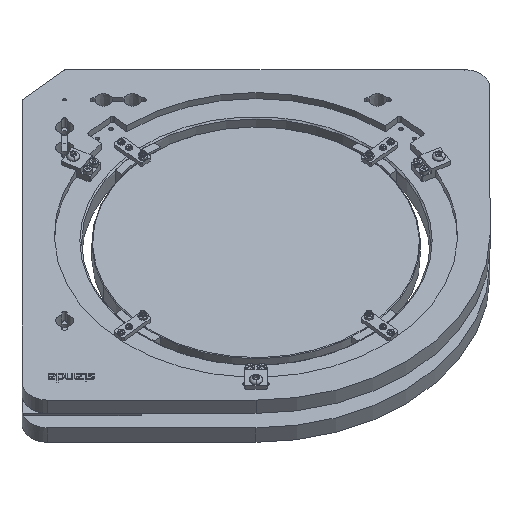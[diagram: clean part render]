
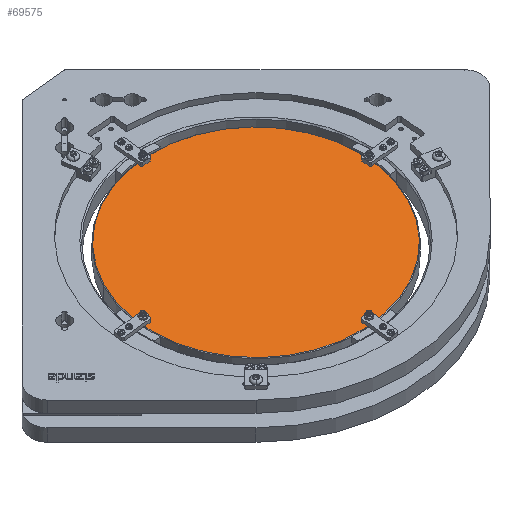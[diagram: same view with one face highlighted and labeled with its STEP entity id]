
A CAD part, top view. The second image highlights one B-rep face of the part: STEP entity #69575.
In plain terms, the highlighted planar face has unit normal (0, 0.707, 0.707).
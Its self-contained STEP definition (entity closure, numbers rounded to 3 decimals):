
#4253=CARTESIAN_POINT('',(1.555,142.859,234.512));
#4254=VERTEX_POINT('',#4253);
#4279=CARTESIAN_POINT('',(3.509,142.557,234.814));
#4280=VERTEX_POINT('',#4279);
#4287=CARTESIAN_POINT('',(2.532,142.708,234.663));
#4288=DIRECTION('',(0.,-0.707,-0.707));
#4289=DIRECTION('',(-0.977,0.151,-0.151));
#4290=AXIS2_PLACEMENT_3D('',#4287,#4288,#4289);
#4291=CIRCLE('',#4290,1.0);
#4292=EDGE_CURVE('',#4254,#4280,#4291,.T.);
#18254=CARTESIAN_POINT('',(-20.367,70.875,306.495));
#18255=VERTEX_POINT('',#18254);
#18264=CARTESIAN_POINT('',(158.367,120.541,256.83));
#18265=VERTEX_POINT('',#18264);
#18266=CARTESIAN_POINT('',(69.,95.708,281.663));
#18267=DIRECTION('',(0.,-0.707,-0.707));
#18268=DIRECTION('',(-0.931,-0.259,0.259));
#18269=AXIS2_PLACEMENT_3D('',#18266,#18267,#18268);
#18270=CIRCLE('',#18269,96.02);
#18271=EDGE_CURVE('',#18255,#18265,#18270,.T.);
#18923=CARTESIAN_POINT('',(134.831,49.253,328.117));
#18924=VERTEX_POINT('',#18923);
#18949=CARTESIAN_POINT('',(136.105,48.163,329.208));
#18950=VERTEX_POINT('',#18949);
#18957=CARTESIAN_POINT('',(135.468,48.708,328.663));
#18958=DIRECTION('',(0.,-0.707,-0.707));
#18959=DIRECTION('',(-0.637,0.545,-0.545));
#18960=AXIS2_PLACEMENT_3D('',#18957,#18958,#18959);
#18961=CIRCLE('',#18960,1.0);
#18962=EDGE_CURVE('',#18924,#18950,#18961,.T.);
#21362=CARTESIAN_POINT('',(3.355,49.109,328.261));
#21363=VERTEX_POINT('',#21362);
#21388=CARTESIAN_POINT('',(1.709,48.307,329.064));
#21389=VERTEX_POINT('',#21388);
#21396=CARTESIAN_POINT('',(2.532,48.708,328.663));
#21397=DIRECTION('',(0.,-0.707,-0.707));
#21398=DIRECTION('',(0.823,0.401,-0.401));
#21399=AXIS2_PLACEMENT_3D('',#21396,#21397,#21398);
#21400=CIRCLE('',#21399,1.);
#21401=EDGE_CURVE('',#21363,#21389,#21400,.T.);
#25257=CARTESIAN_POINT('',(135.651,143.403,233.967));
#25258=VERTEX_POINT('',#25257);
#25283=CARTESIAN_POINT('',(135.285,142.013,235.358));
#25284=VERTEX_POINT('',#25283);
#25291=CARTESIAN_POINT('',(135.468,142.708,234.663));
#25292=DIRECTION('',(0.,-0.707,-0.707));
#25293=DIRECTION('',(0.183,0.695,-0.695));
#25294=AXIS2_PLACEMENT_3D('',#25291,#25292,#25293);
#25295=CIRCLE('',#25294,1.);
#25296=EDGE_CURVE('',#25258,#25284,#25295,.T.);
#49197=CARTESIAN_POINT('',(135.468,142.708,234.663));
#49198=DIRECTION('',(0.,-0.707,-0.707));
#49199=DIRECTION('',(0.183,0.695,-0.695));
#49200=AXIS2_PLACEMENT_3D('',#49197,#49198,#49199);
#49201=CIRCLE('',#49200,1.);
#49202=EDGE_CURVE('',#25284,#25258,#49201,.T.);
#63760=CARTESIAN_POINT('',(2.532,48.708,328.663));
#63761=DIRECTION('',(0.,-0.707,-0.707));
#63762=DIRECTION('',(0.823,0.401,-0.401));
#63763=AXIS2_PLACEMENT_3D('',#63760,#63761,#63762);
#63764=CIRCLE('',#63763,1.);
#63765=EDGE_CURVE('',#21389,#21363,#63764,.T.);
#68240=CARTESIAN_POINT('',(135.468,48.708,328.663));
#68241=DIRECTION('',(0.,-0.707,-0.707));
#68242=DIRECTION('',(-0.637,0.545,-0.545));
#68243=AXIS2_PLACEMENT_3D('',#68240,#68241,#68242);
#68244=CIRCLE('',#68243,1.0);
#68245=EDGE_CURVE('',#18950,#18924,#68244,.T.);
#69534=CARTESIAN_POINT('',(69.,95.708,281.663));
#69535=DIRECTION('',(0.,-0.707,-0.707));
#69536=DIRECTION('',(-0.931,-0.259,0.259));
#69537=AXIS2_PLACEMENT_3D('',#69534,#69535,#69536);
#69538=CIRCLE('',#69537,96.02);
#69539=EDGE_CURVE('',#18265,#18255,#69538,.T.);
#69544=CARTESIAN_POINT('',(69.,95.708,281.663));
#69545=DIRECTION('',(0.,0.707,0.707));
#69546=DIRECTION('',(0.931,0.259,-0.259));
#69547=AXIS2_PLACEMENT_3D('',#69544,#69545,#69546);
#69548=PLANE('',#69547);
#69549=ORIENTED_EDGE('',*,*,#69539,.F.);
#69550=ORIENTED_EDGE('',*,*,#18271,.F.);
#69551=EDGE_LOOP('',(#69549,#69550));
#69552=FACE_OUTER_BOUND('',#69551,.T.);
#69553=CARTESIAN_POINT('',(2.532,142.708,234.663));
#69554=DIRECTION('',(0.,-0.707,-0.707));
#69555=DIRECTION('',(-0.977,0.151,-0.151));
#69556=AXIS2_PLACEMENT_3D('',#69553,#69554,#69555);
#69557=CIRCLE('',#69556,1.0);
#69558=EDGE_CURVE('',#4280,#4254,#69557,.T.);
#69559=ORIENTED_EDGE('',*,*,#69558,.T.);
#69560=ORIENTED_EDGE('',*,*,#4292,.T.);
#69561=EDGE_LOOP('',(#69559,#69560));
#69562=FACE_BOUND('',#69561,.T.);
#69563=ORIENTED_EDGE('',*,*,#49202,.T.);
#69564=ORIENTED_EDGE('',*,*,#25296,.T.);
#69565=EDGE_LOOP('',(#69563,#69564));
#69566=FACE_BOUND('',#69565,.T.);
#69567=ORIENTED_EDGE('',*,*,#63765,.T.);
#69568=ORIENTED_EDGE('',*,*,#21401,.T.);
#69569=EDGE_LOOP('',(#69567,#69568));
#69570=FACE_BOUND('',#69569,.T.);
#69571=ORIENTED_EDGE('',*,*,#68245,.T.);
#69572=ORIENTED_EDGE('',*,*,#18962,.T.);
#69573=EDGE_LOOP('',(#69571,#69572));
#69574=FACE_BOUND('',#69573,.T.);
#69575=ADVANCED_FACE('',(#69552,#69562,#69566,#69570,#69574),#69548,.T.);
